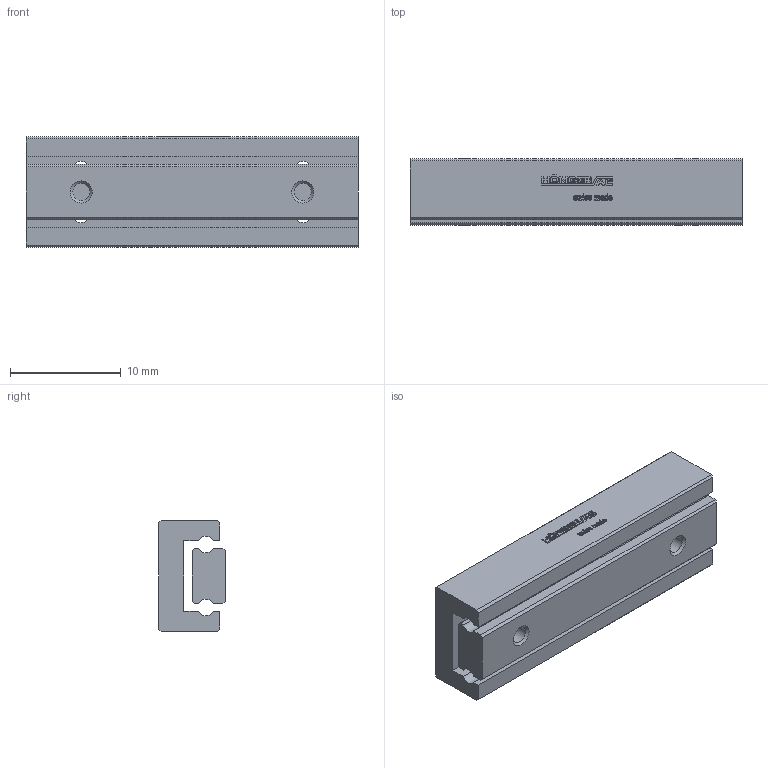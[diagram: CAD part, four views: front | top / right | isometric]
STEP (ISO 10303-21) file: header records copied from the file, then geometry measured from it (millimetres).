
FILE_DESCRIPTION(/* description */ ('STEP AP214'),/* implementation_level */ '2;1');
FILE_NAME(/* name */ 'NDN 1-30.20(0)',/* time_stamp */ '2025-04-16T17:09:38+02:00',/* author */ ('License CC BY-ND 4.0'),/* organization */ ('CADENAS'),/* preprocessor_version */ 'ST-DEVELOPER v19.3',/* originating_system */ 'PARTsolutions',/* authorisation */ ' ');
FILE_SCHEMA (('AUTOMOTIVE_DESIGN {1 0 10303 214 3 1 1}'));
Length unit declared in the file: millimetre
Products named in the file (3): NDN 1-30.20(0); NDN 1-30.20_1; NDN 1-30.20_2
Assembly tree (2 placements, depth 2):
  NDN 1-30.20(0)
    NDN 1-30.20_1
    NDN 1-30.20_2
Bounding box: 30 x 6 x 10 mm (x, y, z)
Volume: 1395.2 mm3; surface area: 1767.2 mm2
Topology: 2 solids, 2 shells, 511 faces, 1432 edges, 952 vertices
Faces by surface type: cylinder 302, plane 201, cone 8
Full cylindrical faces by diameter (mm): 1.567 x6
Entity records: 16723 total; most frequent: DIRECTION 3058, CARTESIAN_POINT 2884, ORIENTED_EDGE 2836, EDGE_CURVE 1418, AXIS2_PLACEMENT_3D 1126, VERTEX_POINT 952, LINE 806, VECTOR 806
